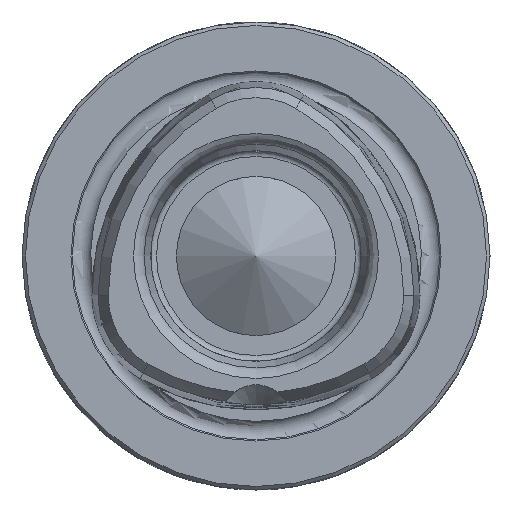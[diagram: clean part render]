
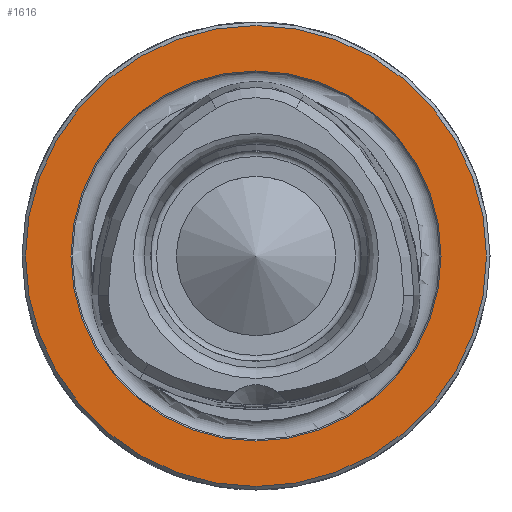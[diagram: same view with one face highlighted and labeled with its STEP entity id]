
A CAD part, left-side view. The second image highlights one B-rep face of the part: STEP entity #1616.
In plain terms, the highlighted planar face has unit normal (-1, 0, 0).
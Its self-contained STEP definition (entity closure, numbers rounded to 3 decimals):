
#25=PLANE('',#1830);
#602=ORIENTED_EDGE('',*,*,#898,.T.);
#603=ORIENTED_EDGE('',*,*,#897,.F.);
#897=EDGE_CURVE('',#1068,#1068,#1165,.T.);
#898=EDGE_CURVE('',#1069,#1069,#1166,.T.);
#1068=VERTEX_POINT('',#3053);
#1069=VERTEX_POINT('',#3056);
#1165=CIRCLE('',#1829,15.814);
#1166=CIRCLE('',#1831,19.7);
#1282=EDGE_LOOP('',(#602));
#1283=EDGE_LOOP('',(#603));
#1450=FACE_BOUND('',#1282,.T.);
#1451=FACE_BOUND('',#1283,.T.);
#1616=ADVANCED_FACE('',(#1450,#1451),#25,.T.);
#1829=AXIS2_PLACEMENT_3D('',#3052,#2221,#2222);
#1830=AXIS2_PLACEMENT_3D('',#3054,#2223,#2224);
#1831=AXIS2_PLACEMENT_3D('',#3055,#2225,#2226);
#2221=DIRECTION('',(-1.,0.,0.));
#2222=DIRECTION('',(0.,0.,1.));
#2223=DIRECTION('',(-1.,0.,0.));
#2224=DIRECTION('',(0.,0.,1.));
#2225=DIRECTION('',(-1.,0.,0.));
#2226=DIRECTION('',(0.,0.,1.));
#3052=CARTESIAN_POINT('',(0.,0.,0.));
#3053=CARTESIAN_POINT('',(0.,0.,15.814));
#3054=CARTESIAN_POINT('',(0.,0.,15.5));
#3055=CARTESIAN_POINT('',(0.,0.,0.));
#3056=CARTESIAN_POINT('',(0.,0.,19.7));
